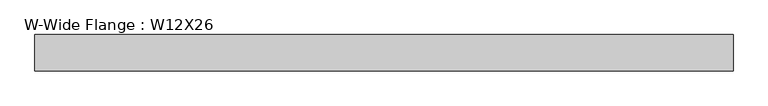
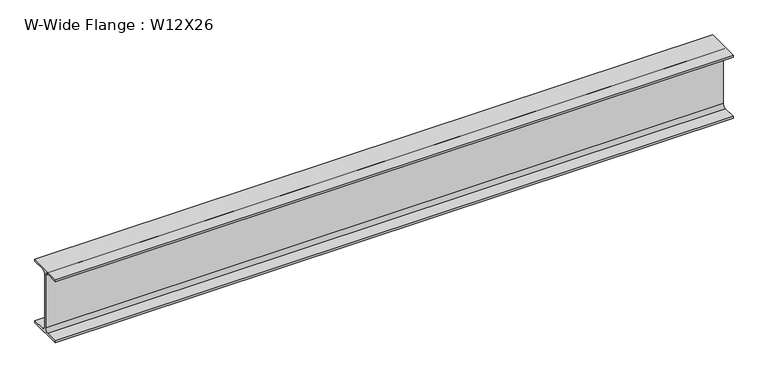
"""IFC4 building model written with IfcOpenShell, lengths in millimetres: beam geometry, W-Wide Flange : W12X26."""

import ifcopenshell
import ifcopenshell.guid

model = None  # the IFC model being written
_history = None  # IfcOwnerHistory: only IFC2X3 demands one
_inside = {}  # id of a spatial element -> (the spatial element, [elements in it])
_under = {}  # id of a project, library or spatial element -> (it, [spatial elements below it])
_declared = {}  # id of a project -> (the project, [libraries it declares])
_typed = {}  # id of a type object -> (the type object, [elements of that type])
_made_of = {}  # id of a material, layer set ... -> (it, [elements and type objects made of it])


def new_model(schema):
    """Start an empty IFC model of exactly this schema.

    Asked for "IFC4X3", IfcOpenShell would pick the latest addendum, in which some entities
    have other attributes; the version numbers below select the first issue.
    IFC2X3 requires an IfcOwnerHistory on every rooted entity: one is made here for all.
    """
    global model, _history
    if schema == "IFC4X3":
        model = ifcopenshell.file(schema_version=(4, 3, 0, 0))
    else:
        model = ifcopenshell.file(schema=schema)
    _inside.clear()
    _under.clear()
    _declared.clear()
    _typed.clear()
    _made_of.clear()
    _history = None
    if model.schema == "IFC2X3":
        org = make("IfcOrganization", Name="unknown")
        user = make(
            "IfcPersonAndOrganization",
            ThePerson=make("IfcPerson", FamilyName="unknown"),
            TheOrganization=org,
        )
        app = make(
            "IfcApplication",
            ApplicationDeveloper=org,
            Version="unknown",
            ApplicationFullName="unknown",
            ApplicationIdentifier="unknown",
        )
        _history = make(
            "IfcOwnerHistory",
            OwningUser=user,
            OwningApplication=app,
            ChangeAction="ADDED",
            CreationDate=0,
        )
    return model


def make(cls, **values):
    """One entity of the class cls with the attributes given. An attribute that is None is left unset."""
    return model.create_entity(
        cls, **{name: value for name, value in values.items() if value is not None}
    )


def rooted(cls, **values):
    """An entity with a GlobalId (a new one), such as an element, a storey or a relation."""
    return make(cls, GlobalId=ifcopenshell.guid.new(), OwnerHistory=_history, **values)


def si_unit(unit_type, name, prefix=None):
    """IfcSIUnit, for example si_unit("LENGTHUNIT", "METRE", prefix="MILLI")."""
    return make("IfcSIUnit", UnitType=unit_type, Prefix=prefix, Name=name)


def assignment(units):
    """IfcUnitAssignment: the units of a project."""
    return None if units is None else make("IfcUnitAssignment", Units=units)


def point(xyz):
    """IfcCartesianPoint."""
    return None if xyz is None else make("IfcCartesianPoint", Coordinates=xyz)


def direction(xyz):
    """IfcDirection."""
    return None if xyz is None else make("IfcDirection", DirectionRatios=xyz)


def frame(location, z_axis=None, x_axis=None):
    """IfcAxis2Placement3D, a coordinate frame: its origin and axes. An axis left out is left unset."""
    return make(
        "IfcAxis2Placement3D",
        Location=point(location),
        Axis=direction(z_axis),
        RefDirection=direction(x_axis),
    )


def frame_2d(location, x_axis=None):
    """IfcAxis2Placement2D, a coordinate frame in the plane: its origin and x axis."""
    return make(
        "IfcAxis2Placement2D", Location=point(location), RefDirection=direction(x_axis)
    )


def origin():
    """The frame at (0, 0, 0) with its axes left unset."""
    return frame((0.0, 0.0, 0.0))


def place(relative_to, where):
    """IfcLocalPlacement: puts the frame where relative to a parent placement (None: the world)."""
    return make(
        "IfcLocalPlacement", PlacementRelTo=relative_to, RelativePlacement=where
    )


def context(
    kind, dimensions, precision=None, world=None, true_north=None, identifier=None
):
    """IfcGeometricRepresentationContext, for example the 3D "Model" context."""
    return make(
        "IfcGeometricRepresentationContext",
        ContextIdentifier=identifier,
        ContextType=kind,
        CoordinateSpaceDimension=dimensions,
        Precision=precision,
        WorldCoordinateSystem=world,
        TrueNorth=true_north,
    )


def project(units=None, contexts=None):
    """IfcProject with its units and contexts."""
    return rooted(
        "IfcProject",
        Name="project",
        RepresentationContexts=contexts,
        UnitsInContext=assignment(units),
    )


def spatial(cls, under=None, at=None, **own):
    """A site, building, storey or space (cls), placed at a placement, below another one or the project."""
    s = rooted(cls, ObjectPlacement=at, **own)
    if under is not None:
        _under.setdefault(under.id(), (under, []))[1].append(s)
    return s


def polyline(points):
    """IfcPolyline through the points."""
    return make("IfcPolyline", Points=[point(p) for p in points])


def circle_curve(where, radius):
    """IfcCircle in the frame where."""
    return make("IfcCircle", Position=where, Radius=radius)


def trimmed(basis, trim1, trim2, sense, master):
    """IfcTrimmedCurve: the piece of a basis curve between two trims."""
    return make(
        "IfcTrimmedCurve",
        BasisCurve=basis,
        Trim1=trim1,
        Trim2=trim2,
        SenseAgreement=sense,
        MasterRepresentation=master,
    )


def segment(curve, same_sense, transition):
    """IfcCompositeCurveSegment."""
    return make(
        "IfcCompositeCurveSegment",
        Transition=transition,
        SameSense=same_sense,
        ParentCurve=curve,
    )


def composite_curve(segments, self_intersect=None):
    """IfcCompositeCurve: segments joined end to end."""
    return make("IfcCompositeCurve", Segments=segments, SelfIntersect=self_intersect)


def outline(outer, holes=None, kind="AREA"):
    """IfcArbitraryClosedProfileDef: a profile drawn as a closed curve; with holes, ...WithVoids."""
    if holes is None:
        return make("IfcArbitraryClosedProfileDef", ProfileType=kind, OuterCurve=outer)
    return make(
        "IfcArbitraryProfileDefWithVoids",
        ProfileType=kind,
        OuterCurve=outer,
        InnerCurves=holes,
    )


def extrude(swept, where, along, depth):
    """IfcExtrudedAreaSolid: the profile swept, set in the frame where, extruded along a direction by depth."""
    return make(
        "IfcExtrudedAreaSolid",
        SweptArea=swept,
        Position=where,
        ExtrudedDirection=direction(along),
        Depth=depth,
    )


def shape(context_of_items, identifier, shape_type, items):
    """IfcShapeRepresentation: the items that make up one representation, for example the "Body"."""
    return make(
        "IfcShapeRepresentation",
        ContextOfItems=context_of_items,
        RepresentationIdentifier=identifier,
        RepresentationType=shape_type,
        Items=items,
    )


def source(mapping_origin, context_of_items, identifier, shape_type, items):
    """IfcRepresentationMap: a shape defined once, which mapped items show again and again."""
    return make(
        "IfcRepresentationMap",
        MappingOrigin=mapping_origin,
        MappedRepresentation=shape(context_of_items, identifier, shape_type, items),
    )


def transform(
    local_origin,
    x_axis=None,
    y_axis=None,
    z_axis=None,
    scale=None,
    scale2=None,
    scale3=None,
    uniform=True,
):
    """IfcCartesianTransformationOperator3D, or its non-uniform kind. x_axis, y_axis, z_axis: its Axis1, 2, 3."""
    if uniform:
        return make(
            "IfcCartesianTransformationOperator3D",
            Axis1=direction(x_axis),
            Axis2=direction(y_axis),
            LocalOrigin=point(local_origin),
            Scale=scale,
            Axis3=direction(z_axis),
        )
    return make(
        "IfcCartesianTransformationOperator3DnonUniform",
        Axis1=direction(x_axis),
        Axis2=direction(y_axis),
        LocalOrigin=point(local_origin),
        Scale=scale,
        Axis3=direction(z_axis),
        Scale2=scale2,
        Scale3=scale3,
    )


def mapped(mapping_source, mapping_target):
    """IfcMappedItem: shows the shape of a source again, moved by a transform."""
    return make(
        "IfcMappedItem", MappingSource=mapping_source, MappingTarget=mapping_target
    )


def made_of(thing, what):
    """Note that an element or type object is made of a material, layer set ...; save() writes the relation."""
    if what is not None:
        _made_of.setdefault(what.id(), (what, []))[1].append(thing)
    return thing


def element(
    cls,
    number,
    at=None,
    inside=None,
    cuts=None,
    type_object=None,
    material=None,
    context=None,
    identifier="Body",
    shape_type=None,
    held_by="IfcProductDefinitionShape",
    body=None,
    shapes=None,
    **own,
):
    """One element of the class cls, such as IfcWall. Its Tag is "e" and its number.

    at: its placement. inside: the storey or other place that contains it. cuts: it is an
    opening in that element (IfcRelVoidsElement). A single representation is given by context,
    identifier, shape_type and body (its items); several are given by shapes. held_by: the class
    of the entity that holds the representations. save() writes the other relations.
    """
    e = rooted(cls, Tag="e%d" % number, ObjectPlacement=at, **own)
    if body is not None:
        shapes = [shape(context, identifier, shape_type, body)]
    if shapes is not None:
        e.Representation = make(held_by, Representations=shapes)
    if inside is not None:
        _inside.setdefault(inside.id(), (inside, []))[1].append(e)
    if cuts is not None:
        rooted(
            "IfcRelVoidsElement", RelatingBuildingElement=cuts, RelatedOpeningElement=e
        )
    if type_object is not None:
        _typed.setdefault(type_object.id(), (type_object, []))[1].append(e)
    return made_of(e, material)


def aggregate(whole, parts):
    """IfcRelAggregates: a whole, such as a stair, and the parts it consists of."""
    return rooted("IfcRelAggregates", RelatingObject=whole, RelatedObjects=parts)


def save(model, path):
    """Write the relations noted so far, then the file.

    IfcRelAggregates (storeys below a building ...), IfcRelContainedInSpatialStructure (elements
    in a storey), IfcRelDefinesByType, IfcRelAssociatesMaterial and IfcRelDeclares: one each for
    every whole, place, type object, material and project.
    """
    for whole, parts in _under.values():
        aggregate(whole, parts)
    for where, things in _inside.values():
        rooted(
            "IfcRelContainedInSpatialStructure",
            RelatedElements=things,
            RelatingStructure=where,
        )
    for kind, things in _typed.values():
        rooted("IfcRelDefinesByType", RelatedObjects=things, RelatingType=kind)
    for what, things in _made_of.values():
        rooted("IfcRelAssociatesMaterial", RelatedObjects=things, RelatingMaterial=what)
    for by, libraries in _declared.values():
        rooted("IfcRelDeclares", RelatingContext=by, RelatedDefinitions=libraries)
    model.write(path)


def w_wide_flange_w12x26_0bcb4ac5(model_context):
    return source(origin(), model_context, "Body", "SweptSolid", [
        extrude(outline(composite_curve([segment(polyline([(82.4011719, -145.5539063), (82.4011719, -155.178125), (-82.4011719, -155.178125), (-82.4011719, -145.5539063), (-20.2902344, -145.5539063)]), True, "CONTINUOUS"), segment(trimmed(circle_curve(frame_2d((-20.2902344, -128.190625)), 17.3632812), [point((-20.2902344, -145.5539063))], [point((-2.9269531, -128.190625))], True, "CARTESIAN"), True, "CONTINUOUS"), segment(polyline([(-2.9269531, -128.190625), (-2.9269531, 128.190625)]), True, "CONTINUOUS"), segment(trimmed(circle_curve(frame_2d((-20.2902344, 128.190625)), 17.3632812), [point((-2.9269531, 128.190625))], [point((-20.2902344, 145.5539062))], True, "CARTESIAN"), True, "CONTINUOUS"), segment(polyline([(-20.2902344, 145.5539062), (-82.4011719, 145.5539062), (-82.4011719, 155.178125), (82.4011719, 155.178125), (82.4011719, 145.5539062), (20.2902344, 145.5539062)]), True, "CONTINUOUS"), segment(trimmed(circle_curve(frame_2d((20.2902344, 128.190625)), 17.3632812), [point((20.2902344, 145.5539062))], [point((2.9269531, 128.190625))], True, "CARTESIAN"), True, "CONTINUOUS"), segment(polyline([(2.9269531, 128.190625), (2.9269531, -128.190625)]), True, "CONTINUOUS"), segment(trimmed(circle_curve(frame_2d((20.2902344, -128.190625)), 17.3632812), [point((2.9269531, -128.190625))], [point((20.2902344, -145.5539063))], True, "CARTESIAN"), True, "CONTINUOUS"), segment(polyline([(20.2902344, -145.5539063), (82.4011719, -145.5539063)]), True, "CONTINUOUS")], self_intersect=False)), frame((-1574.8, 0.0, 0.0), z_axis=(1.0, 0.0, 0.0), x_axis=(0.0, 1.0, 0.0)), (0.0, 0.0, 1.0), 3149.6),
    ])


if __name__ == "__main__":
    model = new_model("IFC4")
    model_context = context("Model", 3, world=origin())
    ifc_project = project(units=[si_unit("LENGTHUNIT", "METRE", prefix="MILLI")], contexts=[model_context])
    site = spatial("IfcSite", under=ifc_project)
    building = spatial("IfcBuilding", under=site)
    placement = place(None, origin())
    w_wide_flange_w12x26_shape = w_wide_flange_w12x26_0bcb4ac5(model_context)
    element("IfcBeam", 1, ObjectType="W-Wide Flange : W12X26", at=placement, inside=building, context=model_context, shape_type="MappedRepresentation", body=[
        mapped(w_wide_flange_w12x26_shape, transform((0.0, 0.0, 0.0), x_axis=(1.0, 0.0, 0.0), y_axis=(0.0, 1.0, 0.0), z_axis=(0.0, 0.0, 1.0))),
    ])
    save(model, "model.ifc")
